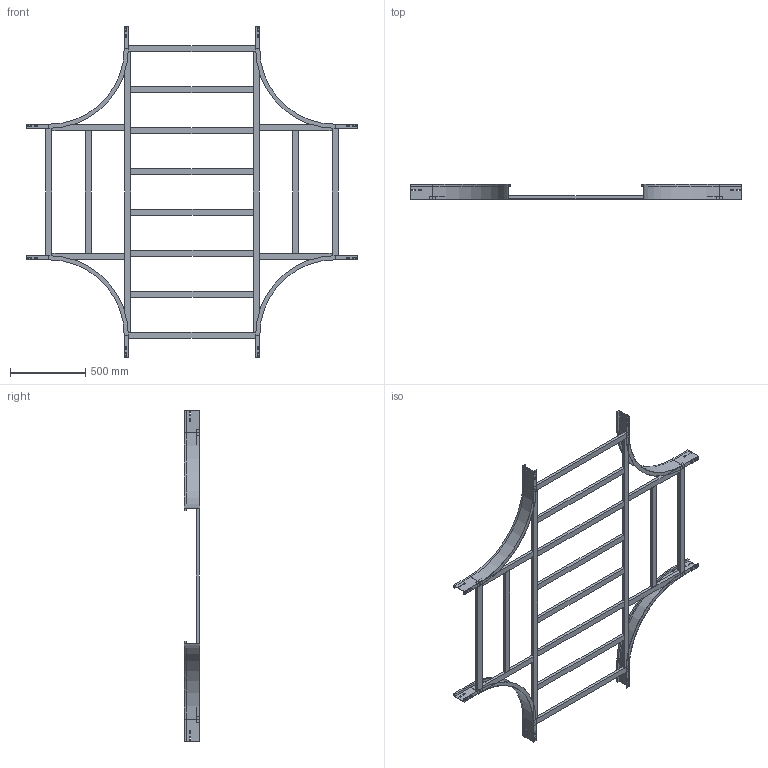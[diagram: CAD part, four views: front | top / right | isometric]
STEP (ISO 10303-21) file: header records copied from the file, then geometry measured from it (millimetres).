
FILE_DESCRIPTION (( 'STEP AP214' ), '1' );
FILE_NAME ('17B5D900.step', '2025-02-21T15:54:47', ( '' ), ( '' ), 'SwSTEP 2.0', 'SolidWorks 2023', '' );
FILE_SCHEMA (( 'AUTOMOTIVE_DESIGN' ));
Length unit declared in the file: millimetre
Products named in the file (7): LONGH.INTERNO 90°_H100_R500; TRAVERSINO_900; 17B5D900; TRAVERSINO_INTERMEDIO_R500+900; TRAVERSINO_LONG._R500+900; TRAVERSINO_COPPIA_900; TRAVERSINO_VERT_R500
Assembly tree (22 placements, depth 2):
  17B5D900
    LONGH.INTERNO 90°_H100_R500  x4
    TRAVERSINO_900  x4
    TRAVERSINO_LONG._R500+900  x2
    TRAVERSINO_INTERMEDIO_R500+900  x6
    TRAVERSINO_VERT_R500  x4
    TRAVERSINO_COPPIA_900  x2
Bounding box: 2200 x 100 x 2200 mm (x, y, z)
Volume: 14684503.6 mm3; surface area: 3183365.7 mm2
Topology: 22 solids, 22 shells, 340 faces, 824 edges, 528 vertices
Faces by surface type: plane 324, cylinder 16
Entity records: 2876 total; most frequent: CARTESIAN_POINT 461, DIRECTION 446, ORIENTED_EDGE 424, EDGE_CURVE 212, LINE 204, VECTOR 204, VERTEX_POINT 136, AXIS2_PLACEMENT_3D 121
